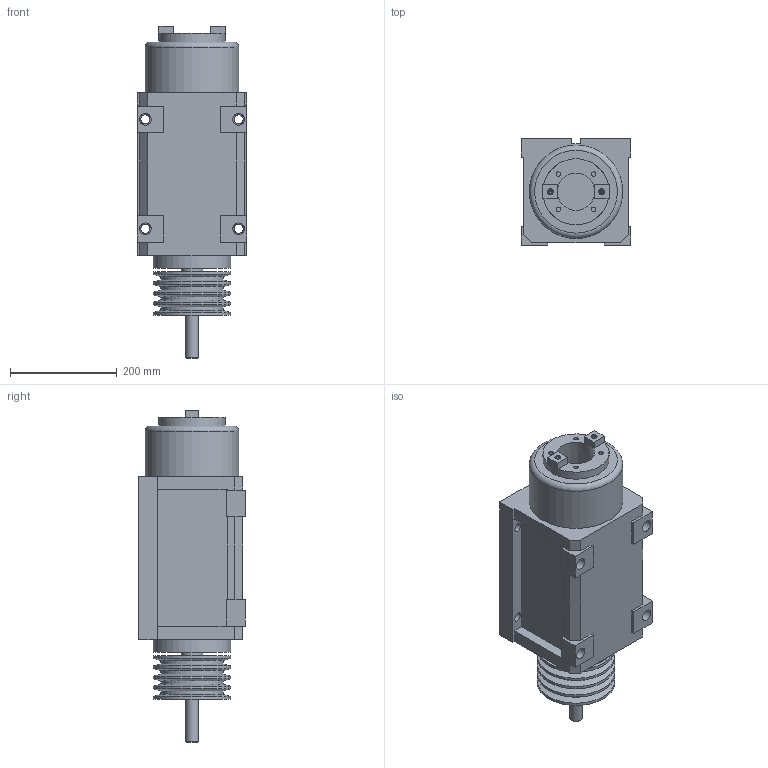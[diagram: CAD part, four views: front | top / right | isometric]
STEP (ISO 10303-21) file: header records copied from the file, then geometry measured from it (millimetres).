
FILE_DESCRIPTION(('STEP AP214'), '1');
FILE_NAME('崶鴈麧錪 謥懤臇闀謶碭僾鍣 _ DB4.02.5k-SQBT50', '', ('UNSPECIFIED'), ('UNSPECIFIED'), 'ASCON STEP Converter 1.3', 'ASCON Math Kernel', '');
FILE_SCHEMA(('AUTOMOTIVE_DESIGN { 1 0 10303 214 3 1 1}'));
Length unit declared in the file: millimetre
Products named in the file (3): DB4.0/2.5k-SQ/BT50
Assembly tree (3 placements, depth 2):
  DB4.0/2.5k-SQ/BT50
    (unnamed)
    (unnamed)  x2
Bounding box: 205 x 200 x 622 mm (x, y, z)
Volume: 13007195.4 mm3; surface area: 624389.6 mm2
Topology: 4 solids, 4 shells, 195 faces, 469 edges, 302 vertices
Faces by surface type: plane 130, cylinder 42, cone 18, torus 5
Full cylindrical faces by diameter (mm): 6 x2, 8.376 x8, 10 x2, 11 x2, 17 x4, 22 x4, 24 x1, 40 x1, 48 x1, 48.376 x1, 117 x4, 124 x1, 145 x6, 175 x1
Entity records: 6969 total; most frequent: CARTESIAN_POINT 1286, DIRECTION 820, ORIENTED_EDGE 760, EDGE_CURVE 380, AXIS2_PLACEMENT_3D 283, VERTEX_POINT 280, EDGE_LOOP 272, LINE 254
